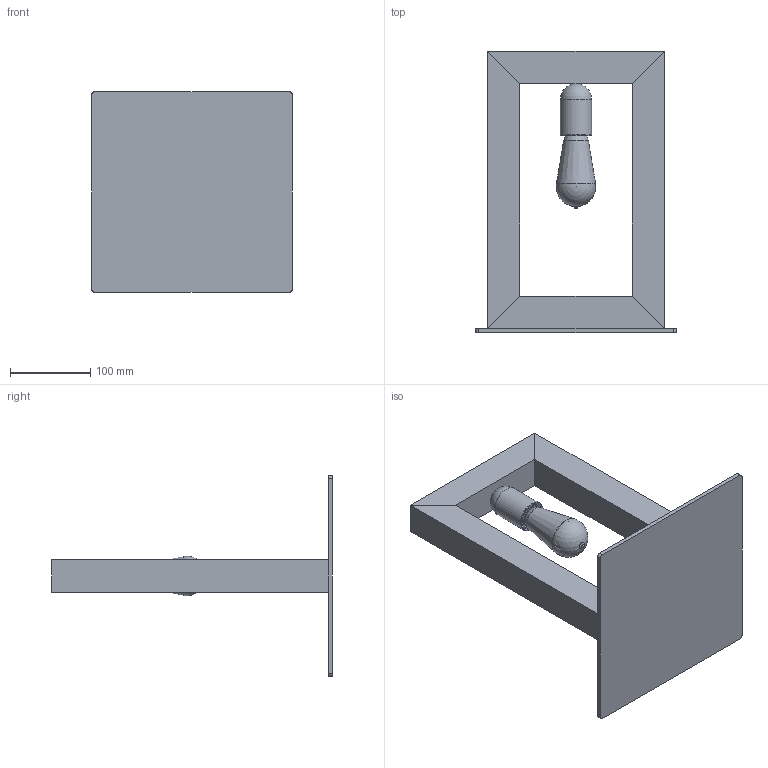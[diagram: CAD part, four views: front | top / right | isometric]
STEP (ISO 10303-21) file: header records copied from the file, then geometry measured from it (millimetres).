
FILE_DESCRIPTION(/* description */ (''),/* implementation_level */ '2;1');
FILE_NAME(/* name */ 'C:/Users/kubaw/OneDrive/Pulpit/TK_lighting - modele 2/OK/5460_METRO v5/5460_METRO v5.step',/* time_stamp */ '2021-03-31T19:42:17+02:00',/* author */ (''),/* organization */ (''),/* preprocessor_version */ 'ST-DEVELOPER v18.1',/* originating_system */ 'Autodesk Translation Framework v9.10.0.1330',/* authorisation */ '');
FILE_SCHEMA (('AUTOMOTIVE_DESIGN { 1 0 10303 214 3 1 1 }'));
Length unit declared in the file: millimetre
Products named in the file (2): 5460_METRO; OPRAWA
Assembly tree (1 placements, depth 2):
  5460_METRO
    OPRAWA
Bounding box: 250 x 350 x 250 mm (x, y, z)
Volume: 1935879.3 mm3; surface area: 342824.1 mm2
Topology: 14 solids, 14 shells, 85 faces, 160 edges, 106 vertices
Faces by surface type: plane 45, cone 12, cylinder 11, bspline 7, torus 5, sphere 5
Full cylindrical faces by diameter (mm): 1.04 x4, 5.2 x1, 37.7 x1, 39 x1
Entity records: 2430 total; most frequent: CARTESIAN_POINT 635, DIRECTION 373, ORIENTED_EDGE 310, EDGE_CURVE 155, AXIS2_PLACEMENT_3D 145, VERTEX_POINT 106, EDGE_LOOP 93, FACE_OUTER_BOUND 85
